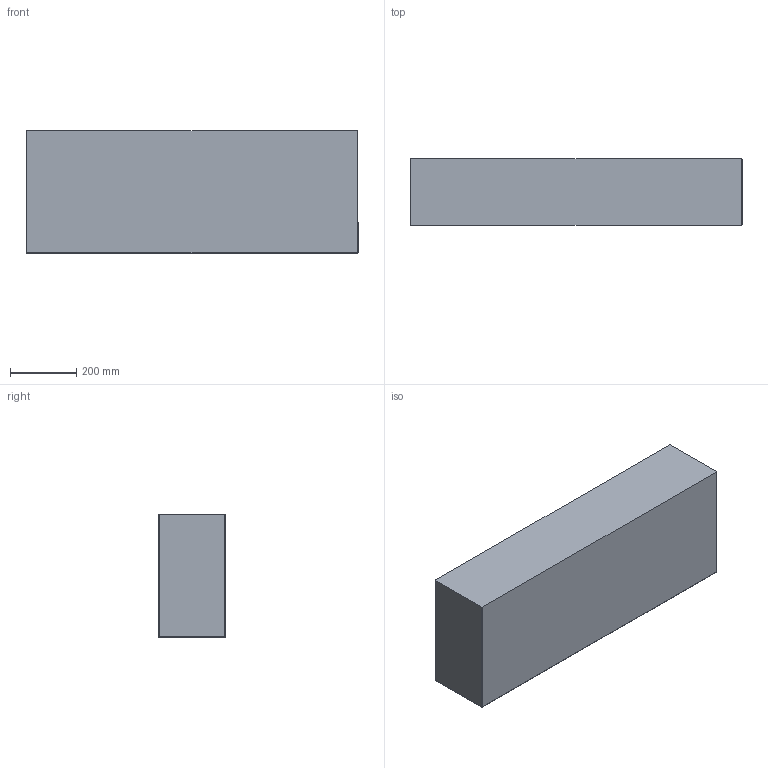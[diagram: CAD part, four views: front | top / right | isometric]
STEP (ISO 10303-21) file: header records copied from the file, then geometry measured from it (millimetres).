
FILE_DESCRIPTION(('CATIA V5 STEP Exchange'),'2;1');
FILE_NAME('C:\Users\Luca\Downloads\mobili next\7533\3D_7533.stp','2023-01-31T14:19:34+00:00',('none'),('none'),'CATIA Version 5 Release 19 SP 5 (IN-10)','CATIA V5 STEP AP214','none');
FILE_SCHEMA(('AUTOMOTIVE_DESIGN { 1 0 10303 214 1 1 1 1 }'));
Length unit declared in the file: millimetre
Products named in the file (1): ART. 7533
Bounding box: 1000 x 200 x 370 mm (x, y, z)
Volume: 21541875.6 mm3; surface area: 2405408.7 mm2
Topology: 2 solids, 2 shells, 103 faces, 232 edges, 122 vertices
Faces by surface type: cylinder 40, plane 25, bspline 20, sphere 16, torus 2
Entity records: 3983 total; most frequent: CARTESIAN_POINT 1973, ORIENTED_EDGE 440, DIRECTION 319, EDGE_CURVE 220, AXIS2_PLACEMENT_3D 151, VERTEX_POINT 122, EDGE_LOOP 104, ADVANCED_FACE 103
